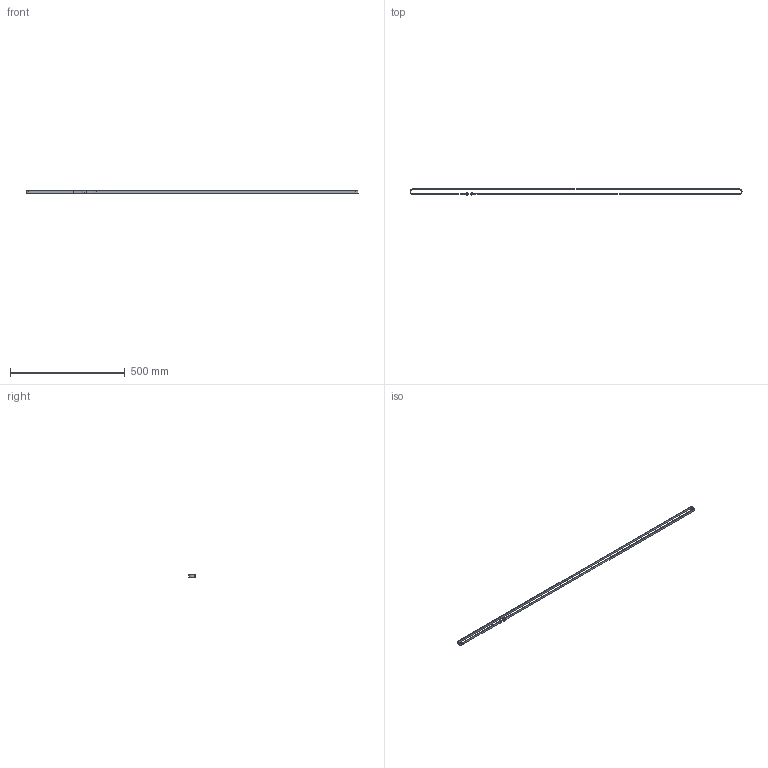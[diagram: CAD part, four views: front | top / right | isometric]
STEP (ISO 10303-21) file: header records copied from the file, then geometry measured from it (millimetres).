
FILE_DESCRIPTION(/* description */ (''),/* implementation_level */ '2;1');
FILE_NAME(/* name */ 'X-9FDA~1',/* time_stamp */ '2014-02-14T19:47:30+01:00',/* author */ (''),/* organization */ (''),/* preprocessor_version */ 'ST-DEVELOPER v14',/* originating_system */ '',/* authorisation */ '');
FILE_SCHEMA (('AUTOMOTIVE_DESIGN'));
Length unit declared in the file: millimetre
Products named in the file (1): Document
Bounding box: 1449.1 x 27 x 9 mm (x, y, z)
Surface area: 67751.4 mm2 (no closed solid volume)
Topology: 0 solids, 7 shells, 34 faces, 96 edges, 64 vertices
Faces by surface type: plane 18, bspline 16
Entity records: 2704 total; most frequent: CARTESIAN_POINT 1568, B_SPLINE_CURVE_WITH_KNOTS 184, ORIENTED_EDGE 144, PCURVE 144, DEFINITIONAL_REPRESENTATION 144, SURFACE_CURVE 96, EDGE_CURVE 96, VERTEX_POINT 64
